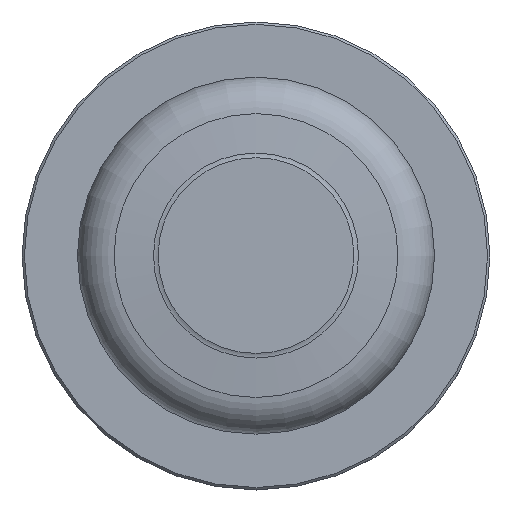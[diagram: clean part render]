
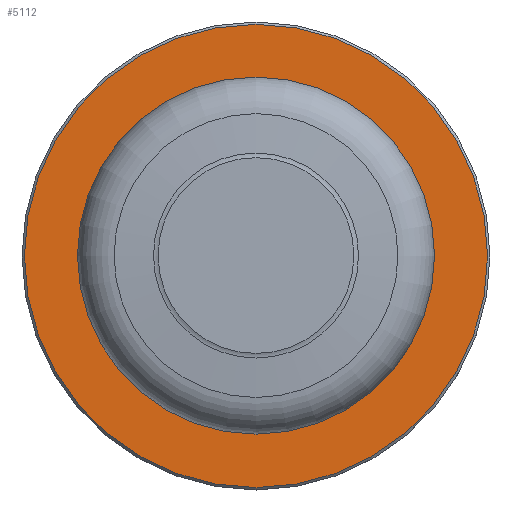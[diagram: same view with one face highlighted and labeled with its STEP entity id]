
A CAD part, top view. The second image highlights one B-rep face of the part: STEP entity #5112.
In plain terms, the highlighted planar face has unit normal (0, 0, 1) as drawn and (0, 1, 0) by its records, which use the part's own axes.
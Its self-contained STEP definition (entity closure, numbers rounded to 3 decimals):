
#4489=FACE_OUTER_BOUND('',#6016,.T.);
#5112=ADVANCED_FACE('AC_MATE2',(#4489),#5429,.F.);
#5429=PLANE('',#10369);
#6016=EDGE_LOOP('',(#7101));
#7101=ORIENTED_EDGE('',*,*,#9151,.T.);
#8410=VERTEX_POINT('',#13618);
#9151=EDGE_CURVE('',#8410,#8410,#9829,.T.);
#9829=CIRCLE('',#10368,24.25);
#10368=AXIS2_PLACEMENT_3D('',#13617,#11714,#11715);
#10369=AXIS2_PLACEMENT_3D('',#13619,#11716,#11717);
#11714=DIRECTION('',(0.,1.,0.));
#11715=DIRECTION('',(1.,0.,0.));
#11716=DIRECTION('',(0.,-1.,0.));
#11717=DIRECTION('',(1.,0.,0.));
#13617=CARTESIAN_POINT('',(0.,14.005,0.));
#13618=CARTESIAN_POINT('',(24.25,14.005,0.));
#13619=CARTESIAN_POINT('',(18.733,14.005,0.));
